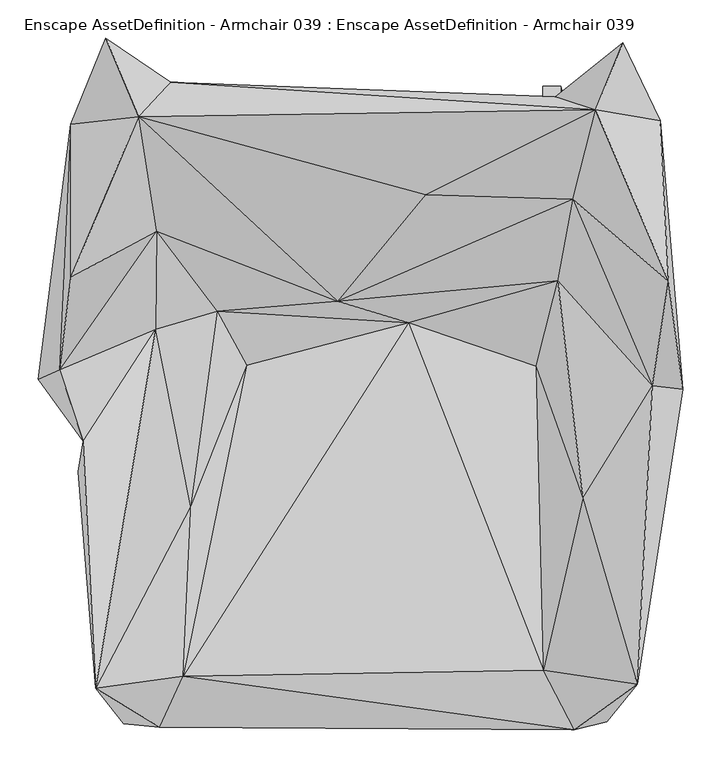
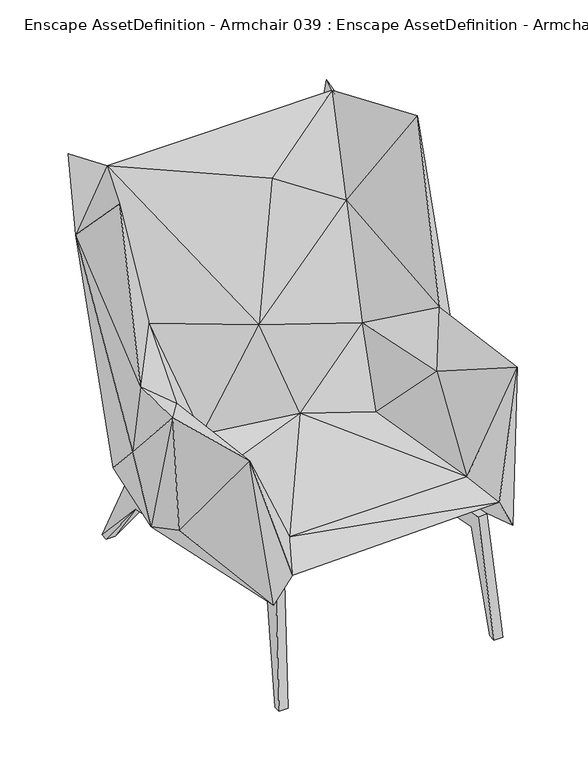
"""IFC4 building model written with IfcOpenShell, lengths in millimetres: geographic element geometry, Enscape AssetDefinition - Armchair 039 : Enscape AssetDefinition - Armchair 039."""

from ifc_helpers import new_model, si_unit, origin, place, context, project, spatial, triangles, source, transform, mapped, element, save


def enscape_assetdefinition_armchair_039_enscape_assetdefinition_260125eb(model_context):
    return source(origin(), model_context, "Body", "Tessellation", [
        triangles([(264.4430157, 253.3429846, 153.4699928), (231.7820005, 382.9039899, 784.0360096), (255.7140063, -372.3180081, 321.9829991), (261.1530094, 163.1380074, 216.9920058), (255.1499964, 382.9039899, 785.2470549), (255.275007, 404.723988, 782.8450212), (260.6660115, 287.8440037, 226.3779881), (231.9059937, 404.723988, 781.633976), (295.2240038, 395.0100097, 0.0), (284.0349884, 287.8440037, 227.5879978), (271.856008, 395.0100097, 0.0), (271.8299921, 376.3999901, 0.0), (295.197988, 376.3999901, 0.0), (287.8119926, 253.3429846, 154.6800025), (284.5210052, 163.1380074, 218.2029965), (281.6109903, -336.9059981, 274.3819984), (295.4800202, -416.4730165, 0.0), (295.4800202, -397.1090095, 0.0), (279.0830196, -372.3180081, 323.1940081), (272.1120061, -397.1090095, 0.0), (272.1120061, -416.4730165, 0.0), (258.2429944, -336.9059981, 273.1710076), (-271.8299921, 376.3999901, 0.0), (-264.4430157, 253.3429846, 153.4699928), (-272.1120061, -397.1090095, 0.0), (-258.2429944, -336.9059981, 273.1710076), (-272.1120061, -416.4730165, 0.0), (-295.4800202, -416.4730165, 0.0), (-295.4800202, -397.1090095, 0.0), (-255.7140063, -372.3180081, 321.9829991), (-279.0830196, -372.3180081, 323.1940081), (-284.5210052, 163.1380074, 218.2029965), (-281.6109903, -336.9059981, 274.3819984), (-284.0349884, 287.8440037, 227.5879978), (-255.1499964, 382.9039899, 785.2470549), (-261.1530094, 163.1380074, 216.9920058), (-231.9059937, 404.723988, 781.633976), (-255.275007, 404.723988, 782.8450212), (-231.7820005, 382.9039899, 784.0360096), (-260.6660115, 287.8440037, 226.3779881), (-287.8119926, 253.3429846, 154.6800025), (-295.197988, 376.3999901, 0.0), (-295.2240038, 395.0100097, 0.0), (-271.856008, 395.0100097, 0.0), (-378.1099874, -100.3139987, 343.1600132), (-318.1549988, 129.6769956, 191.3859924), (-430.5809853, 21.0249998, 506.9839889), (-371.6360003, -60.7570019, 629.943017), (-402.4719815, 33.1010001, 670.8740215), (-276.5519968, 86.1340048, 547.8829823), (-355.2899777, -384.4430311, 700.9959475), (-318.3529881, -430.779992, 313.3429742), (265.0929942, -166.6460054, 269.2939914), (-271.2750114, -435.234989, 382.3080234), (-276.5680023, -110.3119985, 259.8769971), (-244.0139937, 290.3530076, 322.5690099), (-233.743, 193.5130065, 236.7909971), (-256.5819948, 410.5780274, 877.1000238), (234.6460154, 217.8030028, 237.0509922), (415.2309774, 7.6029999, 507.2289594), (333.8569837, 291.4429846, 316.3490044), (385.6679927, 359.6740125, 893.8279999), (336.8239901, 462.3500127, 1008.6379978), (248.1880122, 391.2619826, 782.357987), (300.8979853, 374.0709898, 1045.2259535), (396.5939973, 149.5829935, 1077.0360031), (375.2599797, 12.2390002, 632.6060085), (-37.7650005, 123.0480035, 661.9030575), (270.9999919, 257.0959896, 819.7440044), (77.6000054, 262.5850077, 946.1950069), (251.2249998, 150.2860029, 549.4599936), (222.7870009, 37.8950025, 379.0040099), (284.1440115, -135.2089981, 575.7899998), (355.814001, -378.9859878, 709.5479691), (232.2310102, -360.7699848, 436.4209994), (55.148001, 94.8829984, 398.7230098), (-240.5279965, -368.7569973, 438.7650061), (272.9800128, -438.8570063, 397.6069805), (368.6830193, -89.2520013, 296.2000162), (305.4809904, 175.0230014, 176.8190037), (315.6280091, -428.0619893, 311.9849902), (-157.2269946, 39.1010018, 369.8849808), (-230.2639973, -145.9789984, 397.3740005), (-195.6870017, 109.9840025, 419.450015), (-275.3300147, 215.0169991, 693.791954), (-387.5079967, 154.222, 1102.9479389), (-387.5300157, 355.0400293, 894.5580425), (-341.921971, 468.0730282, 1036.3069485), (-298.8489824, 365.1700069, 1050.7839718), (-330.7290133, 282.1820128, 269.005001)], [[58, 90, 88], [90, 46, 47], [90, 87, 88], [90, 47, 87], [89, 58, 88], [88, 87, 89], [87, 86, 89], [87, 49, 86], [47, 49, 87], [86, 85, 89], [49, 85, 86], [50, 85, 49], [50, 84, 85], [50, 83, 84], [83, 82, 84], [77, 82, 83], [78, 53, 81], [81, 53, 79], [53, 80, 79], [60, 79, 80], [79, 60, 74], [81, 74, 78], [81, 79, 74], [75, 78, 74], [75, 77, 78], [84, 82, 76], [76, 82, 77], [76, 77, 75], [72, 76, 75], [72, 75, 73], [73, 75, 74], [67, 74, 60], [73, 74, 67], [71, 73, 67], [71, 72, 73], [72, 71, 76], [76, 71, 68], [84, 76, 68], [85, 68, 89], [85, 84, 68], [89, 68, 70], [68, 71, 69], [69, 71, 67], [68, 69, 70], [66, 67, 60], [69, 67, 66], [65, 89, 70], [65, 58, 89], [65, 69, 66], [70, 69, 65], [66, 60, 62], [66, 62, 65], [65, 62, 63], [63, 64, 65], [65, 64, 58], [62, 61, 63], [63, 61, 64], [60, 61, 62], [60, 80, 61], [61, 80, 59], [80, 53, 59], [59, 56, 61], [61, 56, 64], [64, 56, 58], [56, 90, 58], [90, 56, 57], [46, 90, 57], [53, 57, 59], [57, 56, 59], [57, 53, 55], [46, 57, 55], [55, 53, 54], [78, 77, 54], [54, 53, 78], [52, 46, 55], [52, 55, 54], [51, 54, 77], [51, 83, 50], [77, 83, 51], [52, 54, 51], [51, 50, 48], [50, 49, 48], [47, 48, 49], [47, 46, 48], [48, 45, 51], [45, 52, 51], [46, 52, 45], [45, 48, 46], [42, 44, 23], [42, 43, 44], [41, 42, 23], [43, 42, 41], [44, 43, 34], [34, 43, 41], [40, 34, 38], [40, 38, 37], [44, 34, 40], [37, 39, 40], [37, 38, 35], [35, 38, 34], [37, 35, 39], [39, 36, 40], [35, 36, 39], [35, 32, 36], [32, 35, 34], [32, 34, 41], [41, 33, 32], [29, 28, 33], [36, 32, 31], [33, 31, 32], [28, 31, 33], [36, 31, 30], [31, 28, 27], [31, 27, 30], [25, 29, 33], [28, 29, 25], [28, 25, 27], [36, 30, 26], [27, 25, 26], [30, 27, 26], [25, 33, 26], [33, 41, 24], [24, 44, 40], [36, 26, 24], [24, 23, 44], [41, 23, 24], [33, 24, 26], [24, 40, 36], [21, 3, 22], [20, 21, 22], [20, 18, 17], [20, 17, 21], [21, 17, 19], [21, 19, 3], [3, 19, 15], [20, 22, 16], [15, 19, 16], [17, 18, 16], [19, 17, 16], [20, 16, 18], [15, 16, 14], [22, 14, 16], [22, 1, 14], [12, 14, 1], [12, 13, 14], [14, 13, 9], [11, 9, 13], [11, 12, 1], [7, 11, 1], [11, 13, 12], [11, 7, 10], [14, 9, 10], [11, 10, 9], [14, 10, 15], [8, 6, 10], [8, 10, 7], [5, 15, 10], [6, 5, 10], [8, 5, 6], [8, 2, 5], [2, 8, 7], [4, 15, 5], [1, 22, 4], [22, 3, 4], [4, 2, 7], [3, 15, 4], [4, 5, 2], [4, 7, 1]]),
    ])


if __name__ == "__main__":
    model = new_model("IFC4")
    model_context = context("Model", 3, world=origin())
    ifc_project = project(units=[si_unit("LENGTHUNIT", "METRE", prefix="MILLI")], contexts=[model_context])
    site = spatial("IfcSite", under=ifc_project)
    building = spatial("IfcBuilding", under=site)
    placement = place(None, origin())
    enscape_assetdefinition_armchair_039_enscape_assetdefinition_shape = enscape_assetdefinition_armchair_039_enscape_assetdefinition_260125eb(model_context)
    element("IfcGeographicElement", 1, ObjectType="Enscape AssetDefinition - Armchair 039 : Enscape AssetDefinition - Armchair 039", at=placement, inside=building, context=model_context, shape_type="MappedRepresentation", body=[
        mapped(enscape_assetdefinition_armchair_039_enscape_assetdefinition_shape, transform((0.0, 0.0, 0.0), x_axis=(1.0, 0.0, 0.0), y_axis=(0.0, 1.0, 0.0), z_axis=(0.0, 0.0, 1.0))),
    ])
    save(model, "model.ifc")
